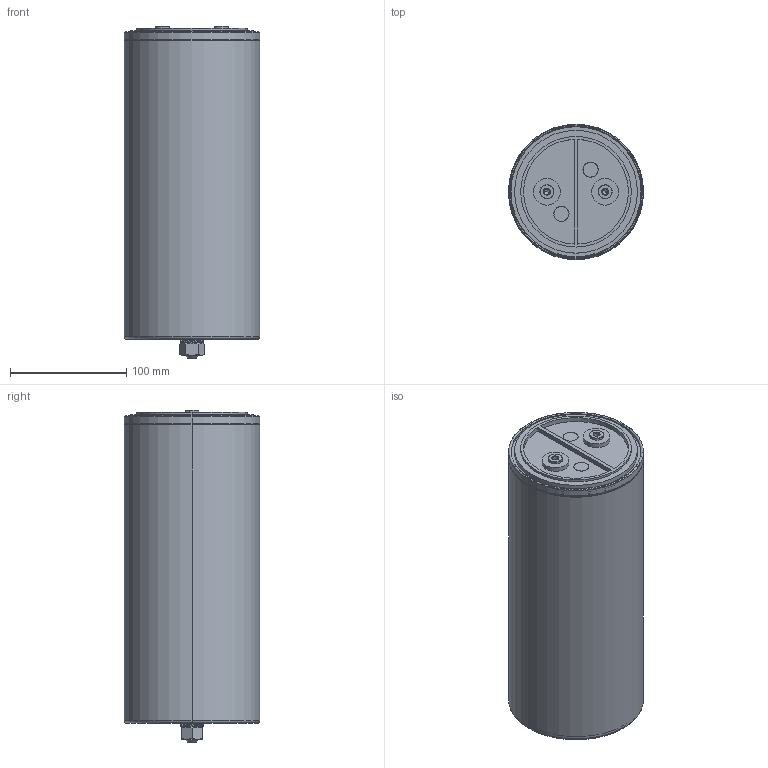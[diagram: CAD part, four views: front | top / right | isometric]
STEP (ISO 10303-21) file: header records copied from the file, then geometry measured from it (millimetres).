
FILE_DESCRIPTION (( 'STEP AP203' ), '1' );
FILE_NAME ('B25620Bx_116x263_269.STEP', '2021-07-01T08:04:50', ( '' ), ( '' ), 'SwSTEP 2.0', 'SolidWorks 2017', '' );
FILE_SCHEMA (( 'CONFIG_CONTROL_DESIGN' ));
Length unit declared in the file: millimetre
Products named in the file (1): B25620Bx_116x263_269
Bounding box: 116 x 116 x 285 mm (x, y, z)
Volume: 147207.5 mm3; surface area: 243559.4 mm2
Topology: 2 solids, 15 shells, 283 faces, 620 edges, 392 vertices
Faces by surface type: plane 113, cylinder 80, bspline 50, cone 22, torus 18
Entity records: 8809 total; most frequent: CARTESIAN_POINT 2696, ORIENTED_EDGE 1232, DIRECTION 1210, EDGE_CURVE 616, AXIS2_PLACEMENT_3D 456, VERTEX_POINT 392, EDGE_LOOP 314, VECTOR 298
